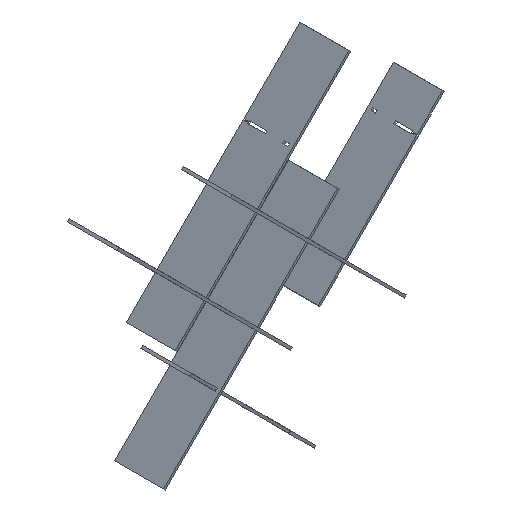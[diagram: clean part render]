
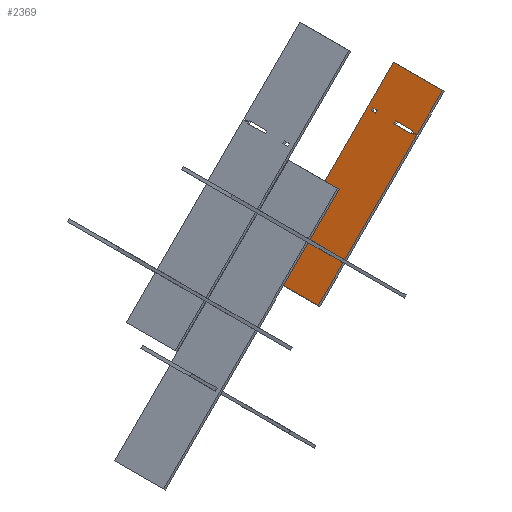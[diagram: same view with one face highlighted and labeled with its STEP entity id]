
A CAD part, isometric view. The second image highlights one B-rep face of the part: STEP entity #2369.
In plain terms, the highlighted planar face has unit normal (-0.707, 0, 0.707) as drawn and (0, 0, 1) by its records, which use the part's own axes.
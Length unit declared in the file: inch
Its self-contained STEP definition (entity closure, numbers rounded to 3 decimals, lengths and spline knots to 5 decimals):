
#59=FACE_BOUND('',#302,.T.);
#60=FACE_BOUND('',#303,.T.);
#175=FACE_OUTER_BOUND('',#301,.T.);
#301=EDGE_LOOP('',(#2087,#2088,#2089,#2090,#2091,#2092,#2093,#2094,#2095,
#2096,#2097,#2098,#2099,#2100,#2101,#2102,#2103,#2104,#2105,#2106));
#302=EDGE_LOOP('',(#2107,#2108,#2109,#2110));
#303=EDGE_LOOP('',(#2111,#2112,#2113,#2114));
#549=LINE('',#3634,#873);
#552=LINE('',#3640,#876);
#555=LINE('',#3646,#879);
#558=LINE('',#3650,#882);
#561=LINE('',#3658,#885);
#564=LINE('',#3664,#888);
#567=LINE('',#3670,#891);
#570=LINE('',#3674,#894);
#573=LINE('',#3682,#897);
#576=LINE('',#3688,#900);
#579=LINE('',#3694,#903);
#582=LINE('',#3700,#906);
#585=LINE('',#3706,#909);
#588=LINE('',#3712,#912);
#591=LINE('',#3718,#915);
#594=LINE('',#3724,#918);
#597=LINE('',#3730,#921);
#600=LINE('',#3736,#924);
#603=LINE('',#3742,#927);
#606=LINE('',#3748,#930);
#609=LINE('',#3754,#933);
#612=LINE('',#3760,#936);
#615=LINE('',#3766,#939);
#618=LINE('',#3772,#942);
#621=LINE('',#3778,#945);
#624=LINE('',#3784,#948);
#627=LINE('',#3790,#951);
#630=LINE('',#3794,#954);
#873=VECTOR('',#2987,0.3937);
#876=VECTOR('',#2992,0.3937);
#879=VECTOR('',#2997,0.3937);
#882=VECTOR('',#3002,0.3937);
#885=VECTOR('',#3007,0.3937);
#888=VECTOR('',#3012,0.3937);
#891=VECTOR('',#3017,0.3937);
#894=VECTOR('',#3022,0.3937);
#897=VECTOR('',#3027,0.3937);
#900=VECTOR('',#3032,0.3937);
#903=VECTOR('',#3037,0.3937);
#906=VECTOR('',#3042,0.3937);
#909=VECTOR('',#3047,0.3937);
#912=VECTOR('',#3052,0.3937);
#915=VECTOR('',#3057,0.3937);
#918=VECTOR('',#3062,0.3937);
#921=VECTOR('',#3067,0.3937);
#924=VECTOR('',#3072,0.3937);
#927=VECTOR('',#3077,0.3937);
#930=VECTOR('',#3082,0.3937);
#933=VECTOR('',#3087,0.3937);
#936=VECTOR('',#3092,0.3937);
#939=VECTOR('',#3097,0.3937);
#942=VECTOR('',#3102,0.3937);
#945=VECTOR('',#3107,0.3937);
#948=VECTOR('',#3112,0.3937);
#951=VECTOR('',#3117,0.3937);
#954=VECTOR('',#3122,0.3937);
#1117=VERTEX_POINT('',#3631);
#1118=VERTEX_POINT('',#3633);
#1120=VERTEX_POINT('',#3639);
#1122=VERTEX_POINT('',#3645);
#1125=VERTEX_POINT('',#3655);
#1126=VERTEX_POINT('',#3657);
#1128=VERTEX_POINT('',#3663);
#1130=VERTEX_POINT('',#3669);
#1133=VERTEX_POINT('',#3679);
#1134=VERTEX_POINT('',#3681);
#1136=VERTEX_POINT('',#3687);
#1138=VERTEX_POINT('',#3693);
#1140=VERTEX_POINT('',#3699);
#1142=VERTEX_POINT('',#3705);
#1144=VERTEX_POINT('',#3711);
#1146=VERTEX_POINT('',#3717);
#1148=VERTEX_POINT('',#3723);
#1150=VERTEX_POINT('',#3729);
#1152=VERTEX_POINT('',#3735);
#1154=VERTEX_POINT('',#3741);
#1156=VERTEX_POINT('',#3747);
#1158=VERTEX_POINT('',#3753);
#1160=VERTEX_POINT('',#3759);
#1162=VERTEX_POINT('',#3765);
#1164=VERTEX_POINT('',#3771);
#1166=VERTEX_POINT('',#3777);
#1168=VERTEX_POINT('',#3783);
#1170=VERTEX_POINT('',#3789);
#1413=EDGE_CURVE('',#1118,#1117,#549,.T.);
#1416=EDGE_CURVE('',#1120,#1118,#552,.T.);
#1419=EDGE_CURVE('',#1122,#1120,#555,.T.);
#1422=EDGE_CURVE('',#1117,#1122,#558,.T.);
#1425=EDGE_CURVE('',#1126,#1125,#561,.T.);
#1428=EDGE_CURVE('',#1128,#1126,#564,.T.);
#1431=EDGE_CURVE('',#1130,#1128,#567,.T.);
#1434=EDGE_CURVE('',#1125,#1130,#570,.T.);
#1437=EDGE_CURVE('',#1134,#1133,#573,.T.);
#1440=EDGE_CURVE('',#1136,#1134,#576,.T.);
#1443=EDGE_CURVE('',#1138,#1136,#579,.T.);
#1446=EDGE_CURVE('',#1140,#1138,#582,.T.);
#1449=EDGE_CURVE('',#1142,#1140,#585,.T.);
#1452=EDGE_CURVE('',#1144,#1142,#588,.T.);
#1455=EDGE_CURVE('',#1146,#1144,#591,.T.);
#1458=EDGE_CURVE('',#1148,#1146,#594,.T.);
#1461=EDGE_CURVE('',#1150,#1148,#597,.T.);
#1464=EDGE_CURVE('',#1152,#1150,#600,.T.);
#1467=EDGE_CURVE('',#1154,#1152,#603,.T.);
#1470=EDGE_CURVE('',#1156,#1154,#606,.T.);
#1473=EDGE_CURVE('',#1158,#1156,#609,.T.);
#1476=EDGE_CURVE('',#1160,#1158,#612,.T.);
#1479=EDGE_CURVE('',#1162,#1160,#615,.T.);
#1482=EDGE_CURVE('',#1164,#1162,#618,.T.);
#1485=EDGE_CURVE('',#1166,#1164,#621,.T.);
#1488=EDGE_CURVE('',#1168,#1166,#624,.T.);
#1491=EDGE_CURVE('',#1170,#1168,#627,.T.);
#1494=EDGE_CURVE('',#1133,#1170,#630,.T.);
#2087=ORIENTED_EDGE('',*,*,#1494,.T.);
#2088=ORIENTED_EDGE('',*,*,#1491,.T.);
#2089=ORIENTED_EDGE('',*,*,#1488,.T.);
#2090=ORIENTED_EDGE('',*,*,#1485,.T.);
#2091=ORIENTED_EDGE('',*,*,#1482,.T.);
#2092=ORIENTED_EDGE('',*,*,#1479,.T.);
#2093=ORIENTED_EDGE('',*,*,#1476,.T.);
#2094=ORIENTED_EDGE('',*,*,#1473,.T.);
#2095=ORIENTED_EDGE('',*,*,#1470,.T.);
#2096=ORIENTED_EDGE('',*,*,#1467,.T.);
#2097=ORIENTED_EDGE('',*,*,#1464,.T.);
#2098=ORIENTED_EDGE('',*,*,#1461,.T.);
#2099=ORIENTED_EDGE('',*,*,#1458,.T.);
#2100=ORIENTED_EDGE('',*,*,#1455,.T.);
#2101=ORIENTED_EDGE('',*,*,#1452,.T.);
#2102=ORIENTED_EDGE('',*,*,#1449,.T.);
#2103=ORIENTED_EDGE('',*,*,#1446,.T.);
#2104=ORIENTED_EDGE('',*,*,#1443,.T.);
#2105=ORIENTED_EDGE('',*,*,#1440,.T.);
#2106=ORIENTED_EDGE('',*,*,#1437,.T.);
#2107=ORIENTED_EDGE('',*,*,#1434,.T.);
#2108=ORIENTED_EDGE('',*,*,#1431,.T.);
#2109=ORIENTED_EDGE('',*,*,#1428,.T.);
#2110=ORIENTED_EDGE('',*,*,#1425,.T.);
#2111=ORIENTED_EDGE('',*,*,#1422,.T.);
#2112=ORIENTED_EDGE('',*,*,#1419,.T.);
#2113=ORIENTED_EDGE('',*,*,#1416,.T.);
#2114=ORIENTED_EDGE('',*,*,#1413,.T.);
#2255=PLANE('',#2559);
#2369=ADVANCED_FACE('',(#175,#59,#60),#2255,.T.);
#2559=AXIS2_PLACEMENT_3D('',#3795,#3123,#3124);
#2987=DIRECTION('',(0.,1.,0.));
#2992=DIRECTION('',(-1.,0.,0.));
#2997=DIRECTION('',(0.,-1.,0.));
#3002=DIRECTION('',(1.,0.,0.));
#3007=DIRECTION('',(0.,1.,0.));
#3012=DIRECTION('',(-1.,0.,0.));
#3017=DIRECTION('',(0.,-1.,0.));
#3022=DIRECTION('',(1.,0.,0.));
#3027=DIRECTION('',(0.,1.,0.));
#3032=DIRECTION('',(1.,0.,0.));
#3037=DIRECTION('',(0.,-1.,0.));
#3042=DIRECTION('',(-1.,0.,0.));
#3047=DIRECTION('',(0.,-1.,0.));
#3052=DIRECTION('',(1.,0.,0.));
#3057=DIRECTION('',(0.,1.,0.));
#3062=DIRECTION('',(-1.,0.,0.));
#3067=DIRECTION('',(0.,1.,0.));
#3072=DIRECTION('',(1.,0.,0.));
#3077=DIRECTION('',(0.,-1.,0.));
#3082=DIRECTION('',(-1.,0.,0.));
#3087=DIRECTION('',(0.,-1.,0.));
#3092=DIRECTION('',(1.,0.,0.));
#3097=DIRECTION('',(0.,1.,0.));
#3102=DIRECTION('',(-1.,0.,0.));
#3107=DIRECTION('',(0.,1.,0.));
#3112=DIRECTION('',(1.,0.,0.));
#3117=DIRECTION('',(0.,-1.,0.));
#3122=DIRECTION('',(-1.,0.,0.));
#3123=DIRECTION('center_axis',(0.,0.,1.));
#3124=DIRECTION('ref_axis',(1.,0.,0.));
#3631=CARTESIAN_POINT('',(6.79943,8.68,0.48));
#3633=CARTESIAN_POINT('',(6.79943,7.74,0.48));
#3634=CARTESIAN_POINT('',(6.79943,7.74,0.48));
#3639=CARTESIAN_POINT('',(7.25947,7.74,0.48));
#3640=CARTESIAN_POINT('',(7.25947,7.74,0.48));
#3645=CARTESIAN_POINT('',(7.25947,8.68,0.48));
#3646=CARTESIAN_POINT('',(7.25947,8.68,0.48));
#3650=CARTESIAN_POINT('',(6.79943,8.68,0.48));
#3655=CARTESIAN_POINT('',(26.74053,8.68,0.48));
#3657=CARTESIAN_POINT('',(26.74053,7.74,0.48));
#3658=CARTESIAN_POINT('',(26.74053,7.74,0.48));
#3663=CARTESIAN_POINT('',(27.20057,7.74,0.48));
#3664=CARTESIAN_POINT('',(27.20057,7.74,0.48));
#3669=CARTESIAN_POINT('',(27.20057,8.68,0.48));
#3670=CARTESIAN_POINT('',(27.20057,8.68,0.48));
#3674=CARTESIAN_POINT('',(26.74053,8.68,0.48));
#3679=CARTESIAN_POINT('',(34.,9.5,0.48));
#3681=CARTESIAN_POINT('',(34.,0.,0.48));
#3682=CARTESIAN_POINT('',(34.,0.,0.48));
#3687=CARTESIAN_POINT('',(27.06057,0.,0.48));
#3688=CARTESIAN_POINT('',(0.,0.,0.48));
#3693=CARTESIAN_POINT('',(27.06057,0.94,0.48));
#3694=CARTESIAN_POINT('',(27.06057,0.94,0.48));
#3699=CARTESIAN_POINT('',(27.20057,0.94,0.48));
#3700=CARTESIAN_POINT('',(27.20057,0.94,0.48));
#3705=CARTESIAN_POINT('',(27.20057,4.34004,0.48));
#3706=CARTESIAN_POINT('',(27.20057,4.34004,0.48));
#3711=CARTESIAN_POINT('',(26.74053,4.34004,0.48));
#3712=CARTESIAN_POINT('',(26.74053,4.34004,0.48));
#3717=CARTESIAN_POINT('',(26.74053,0.94,0.48));
#3718=CARTESIAN_POINT('',(26.74053,0.94,0.48));
#3723=CARTESIAN_POINT('',(26.88053,0.94,0.48));
#3724=CARTESIAN_POINT('',(26.88053,0.94,0.48));
#3729=CARTESIAN_POINT('',(26.88053,0.,0.48));
#3730=CARTESIAN_POINT('',(26.88053,0.,0.48));
#3735=CARTESIAN_POINT('',(7.11947,0.,0.48));
#3736=CARTESIAN_POINT('',(0.,0.,0.48));
#3741=CARTESIAN_POINT('',(7.11947,0.94,0.48));
#3742=CARTESIAN_POINT('',(7.11947,0.94,0.48));
#3747=CARTESIAN_POINT('',(7.25947,0.94,0.48));
#3748=CARTESIAN_POINT('',(7.25947,0.94,0.48));
#3753=CARTESIAN_POINT('',(7.25947,4.34004,0.48));
#3754=CARTESIAN_POINT('',(7.25947,4.34004,0.48));
#3759=CARTESIAN_POINT('',(6.79943,4.34004,0.48));
#3760=CARTESIAN_POINT('',(6.79943,4.34004,0.48));
#3765=CARTESIAN_POINT('',(6.79943,0.94,0.48));
#3766=CARTESIAN_POINT('',(6.79943,0.94,0.48));
#3771=CARTESIAN_POINT('',(6.93943,0.94,0.48));
#3772=CARTESIAN_POINT('',(6.93943,0.94,0.48));
#3777=CARTESIAN_POINT('',(6.93943,0.,0.48));
#3778=CARTESIAN_POINT('',(6.93943,0.,0.48));
#3783=CARTESIAN_POINT('',(0.,0.,0.48));
#3784=CARTESIAN_POINT('',(0.,0.,0.48));
#3789=CARTESIAN_POINT('',(0.,9.5,0.48));
#3790=CARTESIAN_POINT('',(0.,9.5,0.48));
#3794=CARTESIAN_POINT('',(34.,9.5,0.48));
#3795=CARTESIAN_POINT('Origin',(17.,4.75,0.48));
